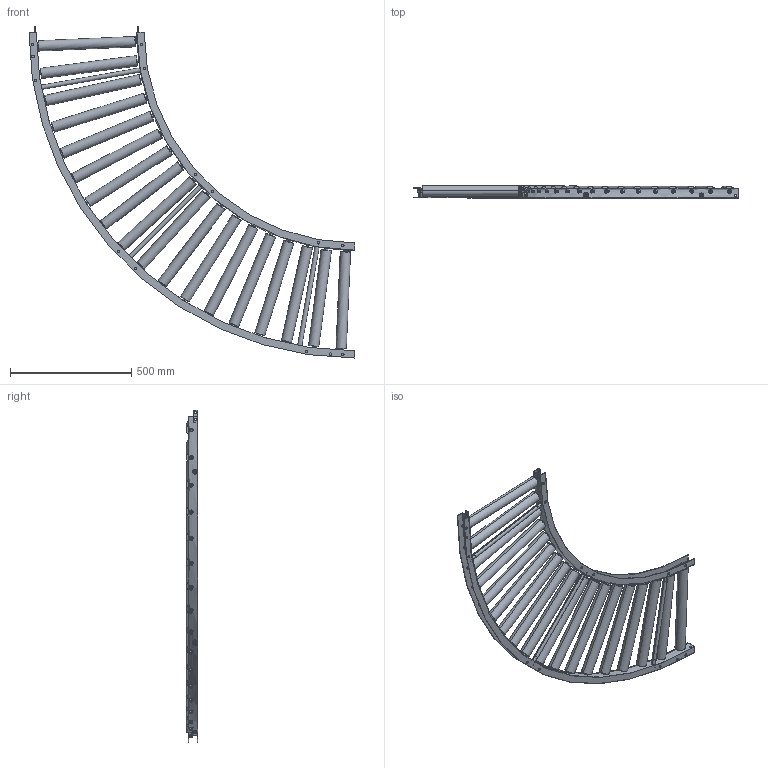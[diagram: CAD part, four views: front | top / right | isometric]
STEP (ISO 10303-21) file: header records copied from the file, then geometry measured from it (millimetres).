
FILE_DESCRIPTION (( 'STEP AP203' ), '1' );
FILE_NAME ('R-4214PL_C.step', '2024-03-15T02:32:09', ( '' ), ( '' ), 'SwSTEP 2.0', 'SolidWorks 2023', '' );
FILE_SCHEMA (( 'CONFIG_CONTROL_DESIGN' ));
Length unit declared in the file: millimetre
Products named in the file (1): R-4214PL_C
Bounding box: 1345 x 49.35 x 1370.08 mm (x, y, z)
Volume: 10745596.3 mm3; surface area: 2643995.9 mm2
Topology: 49 solids, 49 shells, 820 faces, 1920 edges, 1234 vertices
Faces by surface type: cylinder 406, plane 318, torus 72, cone 24
Entity records: 30437 total; most frequent: CARTESIAN_POINT 10863, DIRECTION 4234, ORIENTED_EDGE 3816, EDGE_CURVE 1908, AXIS2_PLACEMENT_3D 1725, VERTEX_POINT 1234, EDGE_LOOP 1074, CIRCLE 904
